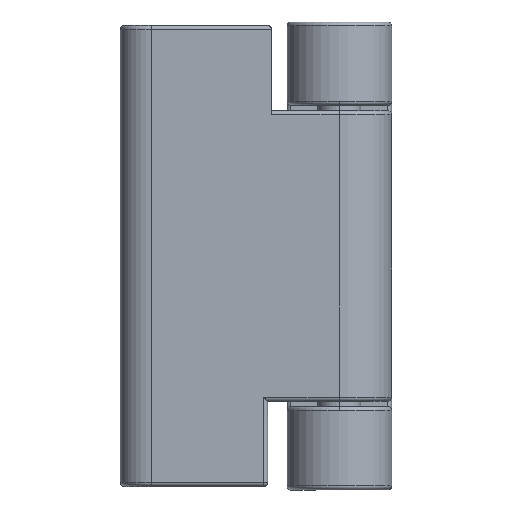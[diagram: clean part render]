
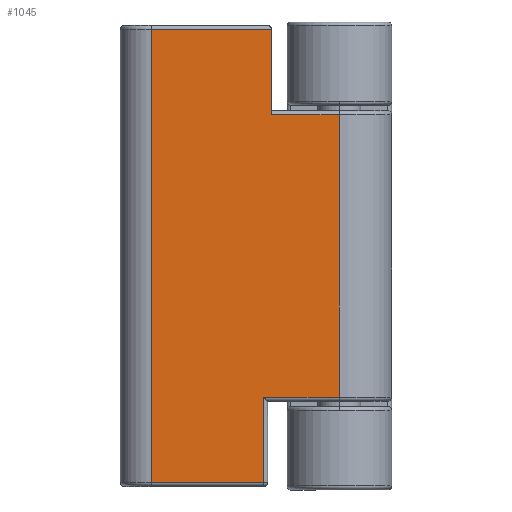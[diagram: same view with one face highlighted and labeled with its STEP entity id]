
A CAD part, top view. The second image highlights one B-rep face of the part: STEP entity #1045.
In plain terms, the highlighted planar face has unit normal (0, 0, 1).
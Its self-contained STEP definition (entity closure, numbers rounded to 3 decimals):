
#23 = DIRECTION ( 'NONE',  ( -1., 0., 0. ) ) ;
#76 = EDGE_CURVE ( 'NONE', #8063, #4113, #4699, .T. ) ;
#107 = LINE ( 'NONE', #5043, #6532 ) ;
#152 = DIRECTION ( 'NONE',  ( 0., -1., 0. ) ) ;
#358 = DIRECTION ( 'NONE',  ( 0., -1., 0. ) ) ;
#448 = VERTEX_POINT ( 'NONE', #3880 ) ;
#676 = CARTESIAN_POINT ( 'NONE',  ( -77.037, 24.521, 8.75 ) ) ;
#767 = CARTESIAN_POINT ( 'NONE',  ( -95.537, 72.521, 8.75 ) ) ;
#1007 = DIRECTION ( 'NONE',  ( 0., 1., 0. ) ) ;
#1045 = ADVANCED_FACE ( 'NONE', ( #1235 ), #5386, .T. ) ;
#1235 = FACE_OUTER_BOUND ( 'NONE', #10113, .T. ) ;
#1310 = VECTOR ( 'NONE', #6869, 1000. ) ;
#1317 = ORIENTED_EDGE ( 'NONE', *, *, #2934, .T. ) ;
#1356 = CARTESIAN_POINT ( 'NONE',  ( -76.537, 14.021, 8.75 ) ) ;
#1454 = EDGE_CURVE ( 'NONE', #8063, #7584, #4084, .T. ) ;
#2074 = VECTOR ( 'NONE', #7199, 1000. ) ;
#2241 = EDGE_CURVE ( 'NONE', #7905, #448, #107, .T. ) ;
#2654 = CARTESIAN_POINT ( 'NONE',  ( -77.037, 14.021, 8.75 ) ) ;
#2770 = EDGE_CURVE ( 'NONE', #4972, #6289, #3854, .T. ) ;
#2880 = VECTOR ( 'NONE', #23, 1000. ) ;
#2934 = EDGE_CURVE ( 'NONE', #448, #7584, #8831, .T. ) ;
#2937 = DIRECTION ( 'NONE',  ( 0., 0., 1. ) ) ;
#3101 = CARTESIAN_POINT ( 'NONE',  ( -76.037, 61.521, 8.75 ) ) ;
#3293 = ORIENTED_EDGE ( 'NONE', *, *, #76, .T. ) ;
#3453 = CARTESIAN_POINT ( 'NONE',  ( -91.537, 14.021, 8.75 ) ) ;
#3632 = CARTESIAN_POINT ( 'NONE',  ( -76.037, 61.521, 8.75 ) ) ;
#3812 = EDGE_CURVE ( 'NONE', #6289, #10275, #4862, .T. ) ;
#3834 = CARTESIAN_POINT ( 'NONE',  ( -91.537, 72.521, 8.75 ) ) ;
#3854 = LINE ( 'NONE', #1356, #1310 ) ;
#3880 = CARTESIAN_POINT ( 'NONE',  ( -67.287, 61.521, 8.75 ) ) ;
#3997 = AXIS2_PLACEMENT_3D ( 'NONE', #8403, #2937, #5217 ) ;
#4084 = LINE ( 'NONE', #4183, #8232 ) ;
#4113 = VERTEX_POINT ( 'NONE', #3834 ) ;
#4121 = ORIENTED_EDGE ( 'NONE', *, *, #6398, .T. ) ;
#4183 = CARTESIAN_POINT ( 'NONE',  ( -76.037, 73.021, 8.75 ) ) ;
#4699 = LINE ( 'NONE', #767, #2074 ) ;
#4862 = LINE ( 'NONE', #676, #4967 ) ;
#4967 = VECTOR ( 'NONE', #7355, 1000. ) ;
#4972 = VERTEX_POINT ( 'NONE', #3453 ) ;
#5043 = CARTESIAN_POINT ( 'NONE',  ( -67.287, 13.521, 8.75 ) ) ;
#5183 = CARTESIAN_POINT ( 'NONE',  ( -91.537, 13.521, 8.75 ) ) ;
#5217 = DIRECTION ( 'NONE',  ( 1., 0., 0. ) ) ;
#5364 = DIRECTION ( 'NONE',  ( 1., 0., 0. ) ) ;
#5386 = PLANE ( 'NONE',  #3997 ) ;
#5983 = LINE ( 'NONE', #5183, #8229 ) ;
#6289 = VERTEX_POINT ( 'NONE', #2654 ) ;
#6398 = EDGE_CURVE ( 'NONE', #10275, #7905, #8654, .T. ) ;
#6400 = CARTESIAN_POINT ( 'NONE',  ( -77.037, 25.021, 8.75 ) ) ;
#6532 = VECTOR ( 'NONE', #1007, 1000. ) ;
#6820 = EDGE_CURVE ( 'NONE', #4113, #4972, #5983, .T. ) ;
#6869 = DIRECTION ( 'NONE',  ( 1., 0., 0. ) ) ;
#7199 = DIRECTION ( 'NONE',  ( -1., 0., 0. ) ) ;
#7355 = DIRECTION ( 'NONE',  ( 0., 1., 0. ) ) ;
#7424 = VECTOR ( 'NONE', #5364, 1000. ) ;
#7584 = VERTEX_POINT ( 'NONE', #3632 ) ;
#7679 = ORIENTED_EDGE ( 'NONE', *, *, #2241, .T. ) ;
#7905 = VERTEX_POINT ( 'NONE', #8045 ) ;
#8045 = CARTESIAN_POINT ( 'NONE',  ( -67.287, 25.021, 8.75 ) ) ;
#8063 = VERTEX_POINT ( 'NONE', #8407 ) ;
#8229 = VECTOR ( 'NONE', #358, 1000. ) ;
#8232 = VECTOR ( 'NONE', #152, 1000. ) ;
#8403 = CARTESIAN_POINT ( 'NONE',  ( -95.537, 13.521, 8.75 ) ) ;
#8407 = CARTESIAN_POINT ( 'NONE',  ( -76.037, 72.521, 8.75 ) ) ;
#8429 = ORIENTED_EDGE ( 'NONE', *, *, #1454, .F. ) ;
#8523 = ORIENTED_EDGE ( 'NONE', *, *, #2770, .T. ) ;
#8654 = LINE ( 'NONE', #10289, #7424 ) ;
#8831 = LINE ( 'NONE', #3101, #2880 ) ;
#9897 = ORIENTED_EDGE ( 'NONE', *, *, #6820, .T. ) ;
#10113 = EDGE_LOOP ( 'NONE', ( #8429, #3293, #9897, #8523, #10170, #4121, #7679, #1317 ) ) ;
#10170 = ORIENTED_EDGE ( 'NONE', *, *, #3812, .T. ) ;
#10275 = VERTEX_POINT ( 'NONE', #6400 ) ;
#10289 = CARTESIAN_POINT ( 'NONE',  ( -67.287, 25.021, 8.75 ) ) ;
